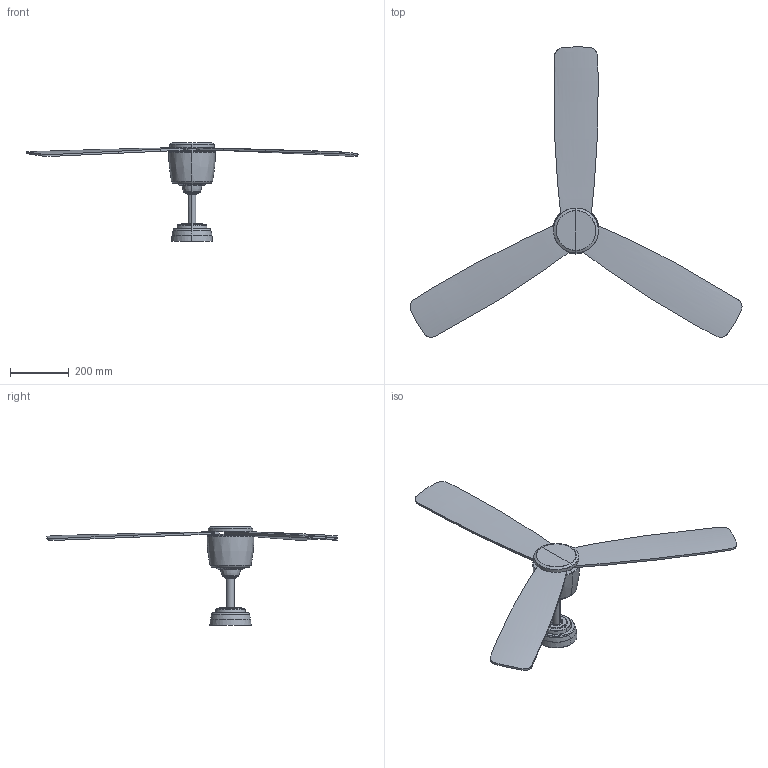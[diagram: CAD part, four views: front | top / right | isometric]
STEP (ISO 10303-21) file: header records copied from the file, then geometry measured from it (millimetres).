
FILE_DESCRIPTION(/* description */ (''),/* implementation_level */ '2;1');
FILE_NAME(/* name */ 'C:\Users\FrancoSartori\Documents\FARO\01_En Proceso\00_MOLOKAI\03_Publicación\33475.stp',/* time_stamp */ '2021-07-13T10:16:53+02:00',/* author */ ('FrancoSartori'),/* organization */ (''),/* preprocessor_version */ 'ST-DEVELOPER v18.1',/* originating_system */ 'AutoCAD Mechanical',/* authorisation */ '');
FILE_SCHEMA (('AUTOMOTIVE_DESIGN { 1 0 10303 214 3 1 1 }'));
Length unit declared in the file: millimetre
Products named in the file (2): Product; 33475_ - fan-493488-Export
Assembly tree (1 placements, depth 2):
  Product
    33475_ - fan-493488-Export
Bounding box: 1128.69 x 987.87 x 336.05 mm (x, y, z)
Volume: 4373586.3 mm3; surface area: 733694.1 mm2
Topology: 6 solids, 6 shells, 224 faces, 648 edges, 436 vertices
Faces by surface type: cylinder 96, plane 66, torus 30, bspline 22, cone 10
Entity records: 17506 total; most frequent: CARTESIAN_POINT 12228, ORIENTED_EDGE 1296, DIRECTION 772, EDGE_CURVE 648, VERTEX_POINT 436, B_SPLINE_CURVE_WITH_KNOTS 362, AXIS2_PLACEMENT_3D 281, EDGE_LOOP 240
